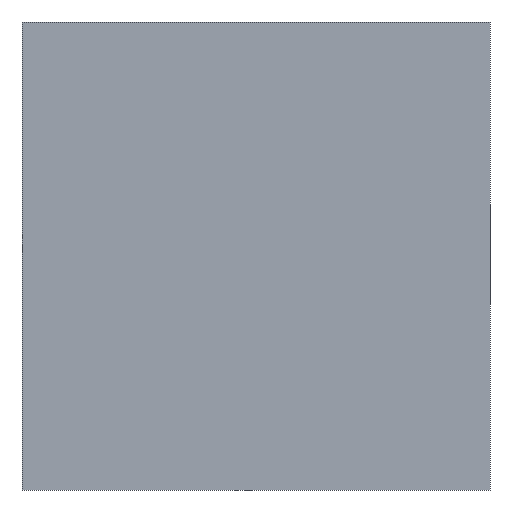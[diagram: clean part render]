
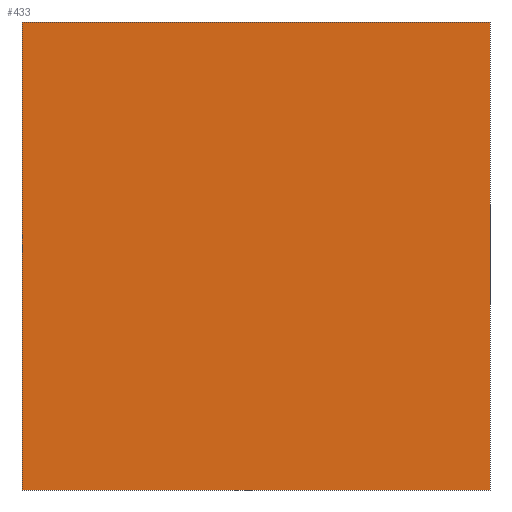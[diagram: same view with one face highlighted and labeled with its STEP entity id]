
A CAD part, front view. The second image highlights one B-rep face of the part: STEP entity #433.
In plain terms, the highlighted planar face has unit normal (0, -1, 0).
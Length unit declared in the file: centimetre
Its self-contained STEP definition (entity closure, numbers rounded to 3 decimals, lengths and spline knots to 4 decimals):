
#3 = AXIS2_PLACEMENT_3D ( 'NONE', #166, #293, #465 ) ;
#16 = DIRECTION ( 'NONE',  ( 0., 0., -1. ) ) ;
#20 = CARTESIAN_POINT ( 'NONE',  ( 0., 0., 1000. ) ) ;
#34 = VERTEX_POINT ( 'NONE', #20 ) ;
#50 = LINE ( 'NONE', #381, #52 ) ;
#51 = VECTOR ( 'NONE', #414, 100. ) ;
#52 = VECTOR ( 'NONE', #16, 100. ) ;
#134 = EDGE_CURVE ( 'NONE', #228, #231, #50, .T. ) ;
#139 = CARTESIAN_POINT ( 'NONE',  ( 0., 0., 0. ) ) ;
#146 = LINE ( 'NONE', #448, #279 ) ;
#153 = EDGE_CURVE ( 'NONE', #34, #228, #146, .T. ) ;
#159 = PLANE ( 'NONE',  #3 ) ;
#166 = CARTESIAN_POINT ( 'NONE',  ( 0., 0., 1000. ) ) ;
#181 = CARTESIAN_POINT ( 'NONE',  ( 0., 0., 0. ) ) ;
#182 = EDGE_LOOP ( 'NONE', ( #537, #528, #237, #253 ) ) ;
#197 = VERTEX_POINT ( 'NONE', #139 ) ;
#199 = LINE ( 'NONE', #502, #51 ) ;
#219 = CARTESIAN_POINT ( 'NONE',  ( 1000., 0., 1000. ) ) ;
#228 = VERTEX_POINT ( 'NONE', #219 ) ;
#231 = VERTEX_POINT ( 'NONE', #518 ) ;
#237 = ORIENTED_EDGE ( 'NONE', *, *, #153, .F. ) ;
#240 = DIRECTION ( 'NONE',  ( 1., 0., 0. ) ) ;
#253 = ORIENTED_EDGE ( 'NONE', *, *, #439, .T. ) ;
#257 = DIRECTION ( 'NONE',  ( 1., 0., 0. ) ) ;
#271 = EDGE_CURVE ( 'NONE', #197, #231, #426, .T. ) ;
#279 = VECTOR ( 'NONE', #240, 100. ) ;
#293 = DIRECTION ( 'NONE',  ( 0., 1., 0. ) ) ;
#360 = VECTOR ( 'NONE', #257, 100. ) ;
#381 = CARTESIAN_POINT ( 'NONE',  ( 1000., 0., 1000. ) ) ;
#408 = FACE_OUTER_BOUND ( 'NONE', #182, .T. ) ;
#414 = DIRECTION ( 'NONE',  ( 0., 0., -1. ) ) ;
#426 = LINE ( 'NONE', #181, #360 ) ;
#433 = ADVANCED_FACE ( 'NONE', ( #408 ), #159, .F. ) ;
#439 = EDGE_CURVE ( 'NONE', #34, #197, #199, .T. ) ;
#448 = CARTESIAN_POINT ( 'NONE',  ( 0., 0., 1000. ) ) ;
#465 = DIRECTION ( 'NONE',  ( 0., 0., 1. ) ) ;
#502 = CARTESIAN_POINT ( 'NONE',  ( 0., 0., 1000. ) ) ;
#518 = CARTESIAN_POINT ( 'NONE',  ( 1000., 0., 0. ) ) ;
#528 = ORIENTED_EDGE ( 'NONE', *, *, #134, .F. ) ;
#537 = ORIENTED_EDGE ( 'NONE', *, *, #271, .T. ) ;
